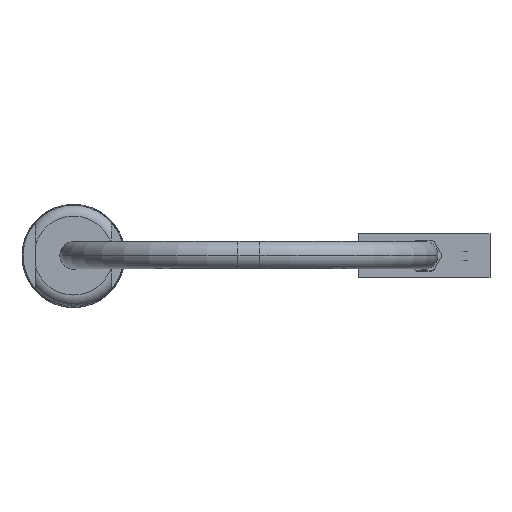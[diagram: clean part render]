
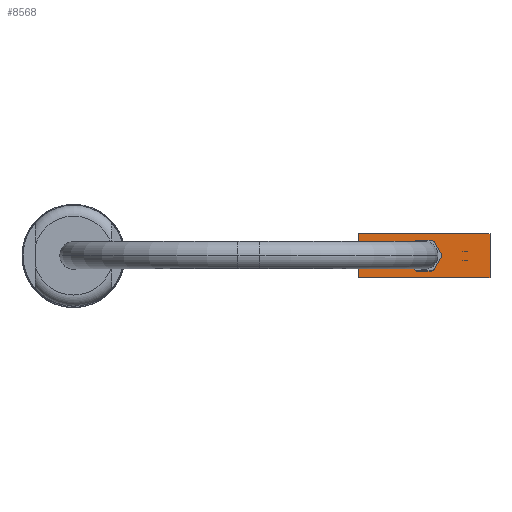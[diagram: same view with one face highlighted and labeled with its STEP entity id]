
A CAD part, top view. The second image highlights one B-rep face of the part: STEP entity #8568.
In plain terms, the highlighted planar face has unit normal (0, 0, 1).
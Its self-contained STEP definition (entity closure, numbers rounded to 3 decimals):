
#16=DIRECTION('',(1.,0.,0.));
#17=VECTOR('',#16,12.);
#18=CARTESIAN_POINT('',(-6.,-2.,0.));
#19=LINE('',#18,#17);
#110=DIRECTION('',(0.,1.,0.));
#111=VECTOR('',#110,4.);
#112=CARTESIAN_POINT('',(-6.,-2.,0.));
#113=LINE('',#112,#111);
#117=DIRECTION('',(1.,0.,0.));
#118=VECTOR('',#117,1.27);
#119=CARTESIAN_POINT('',(-0.635,-1.4,0.));
#120=LINE('',#119,#118);
#124=DIRECTION('',(0.5,0.866,0.));
#125=VECTOR('',#124,1.27);
#126=CARTESIAN_POINT('',(0.895,-1.25,0.));
#127=LINE('',#126,#125);
#131=DIRECTION('',(-0.5,0.866,0.));
#132=VECTOR('',#131,1.27);
#133=CARTESIAN_POINT('',(1.53,0.15,0.));
#134=LINE('',#133,#132);
#138=DIRECTION('',(-1.,0.,0.));
#139=VECTOR('',#138,1.27);
#140=CARTESIAN_POINT('',(0.635,1.4,0.));
#141=LINE('',#140,#139);
#145=DIRECTION('',(-0.5,-0.866,0.));
#146=VECTOR('',#145,1.27);
#147=CARTESIAN_POINT('',(-0.895,1.25,0.));
#148=LINE('',#147,#146);
#152=DIRECTION('',(0.5,-0.866,0.));
#153=VECTOR('',#152,1.27);
#154=CARTESIAN_POINT('',(-1.53,-0.15,0.));
#155=LINE('',#154,#153);
#194=DIRECTION('',(0.,1.,0.));
#195=VECTOR('',#194,4.);
#196=CARTESIAN_POINT('',(6.,-2.,0.));
#197=LINE('',#196,#195);
#2334=DIRECTION('',(1.,0.,0.));
#2335=VECTOR('',#2334,12.);
#2336=CARTESIAN_POINT('',(-6.,2.,0.));
#2337=LINE('',#2336,#2335);
#6704=CARTESIAN_POINT('',(0.635,-1.1,0.));
#6705=DIRECTION('',(0.,0.,-1.));
#6706=DIRECTION('',(0.866,-0.5,0.));
#6707=AXIS2_PLACEMENT_3D('',#6704,#6705,#6706);
#6818=CARTESIAN_POINT('',(1.27,0.,0.));
#6819=DIRECTION('',(0.,0.,-1.));
#6820=DIRECTION('',(0.866,0.5,0.));
#6821=AXIS2_PLACEMENT_3D('',#6818,#6819,#6820);
#6854=CARTESIAN_POINT('',(0.635,1.1,0.));
#6855=DIRECTION('',(0.,0.,-1.));
#6856=DIRECTION('',(0.,1.,0.));
#6857=AXIS2_PLACEMENT_3D('',#6854,#6855,#6856);
#6876=CARTESIAN_POINT('',(-0.635,1.1,0.));
#6877=DIRECTION('',(0.,0.,-1.));
#6878=DIRECTION('',(-0.866,0.5,0.));
#6879=AXIS2_PLACEMENT_3D('',#6876,#6877,#6878);
#6898=CARTESIAN_POINT('',(-1.27,0.,0.));
#6899=DIRECTION('',(0.,0.,-1.));
#6900=DIRECTION('',(-0.866,-0.5,0.));
#6901=AXIS2_PLACEMENT_3D('',#6898,#6899,#6900);
#6920=CARTESIAN_POINT('',(-0.635,-1.1,0.));
#6921=DIRECTION('',(0.,0.,-1.));
#6922=DIRECTION('',(0.,-1.,0.));
#6923=AXIS2_PLACEMENT_3D('',#6920,#6921,#6922);
#7142=CARTESIAN_POINT('',(-6.,-2.,0.));
#7143=CARTESIAN_POINT('',(6.,-2.,0.));
#7144=VERTEX_POINT('',#7142);
#7145=VERTEX_POINT('',#7143);
#7150=CARTESIAN_POINT('',(-6.,2.,0.));
#7151=CARTESIAN_POINT('',(6.,2.,0.));
#7152=VERTEX_POINT('',#7150);
#7153=VERTEX_POINT('',#7151);
#7219=CARTESIAN_POINT('',(1.53,-0.15,0.));
#7221=VERTEX_POINT('',#7219);
#7224=CARTESIAN_POINT('',(1.53,0.15,0.));
#7225=VERTEX_POINT('',#7224);
#7227=CARTESIAN_POINT('',(0.635,-1.4,0.));
#7229=VERTEX_POINT('',#7227);
#7232=CARTESIAN_POINT('',(0.895,-1.25,0.));
#7233=VERTEX_POINT('',#7232);
#7235=CARTESIAN_POINT('',(-0.895,-1.25,0.));
#7237=VERTEX_POINT('',#7235);
#7240=CARTESIAN_POINT('',(-0.635,-1.4,0.));
#7241=VERTEX_POINT('',#7240);
#7243=CARTESIAN_POINT('',(-1.53,0.15,0.));
#7245=VERTEX_POINT('',#7243);
#7248=CARTESIAN_POINT('',(-1.53,-0.15,0.));
#7249=VERTEX_POINT('',#7248);
#7251=CARTESIAN_POINT('',(-0.635,1.4,0.));
#7253=VERTEX_POINT('',#7251);
#7256=CARTESIAN_POINT('',(-0.895,1.25,0.));
#7257=VERTEX_POINT('',#7256);
#7259=CARTESIAN_POINT('',(0.895,1.25,0.));
#7261=VERTEX_POINT('',#7259);
#7264=CARTESIAN_POINT('',(0.635,1.4,0.));
#7265=VERTEX_POINT('',#7264);
#8528=CARTESIAN_POINT('',(-6.,-2.,0.));
#8529=DIRECTION('',(0.,0.,1.));
#8530=DIRECTION('',(1.,0.,0.));
#8531=AXIS2_PLACEMENT_3D('',#8528,#8529,#8530);
#8532=PLANE('',#8531);
#8533=ORIENTED_EDGE('',*,*,#8487,.F.);
#8535=ORIENTED_EDGE('',*,*,#8534,.T.);
#8537=ORIENTED_EDGE('',*,*,#8536,.T.);
#8539=ORIENTED_EDGE('',*,*,#8538,.F.);
#8540=EDGE_LOOP('',(#8533,#8535,#8537,#8539));
#8541=FACE_OUTER_BOUND('',#8540,.F.);
#8543=ORIENTED_EDGE('',*,*,#8542,.T.);
#8545=ORIENTED_EDGE('',*,*,#8544,.F.);
#8547=ORIENTED_EDGE('',*,*,#8546,.T.);
#8549=ORIENTED_EDGE('',*,*,#8548,.F.);
#8551=ORIENTED_EDGE('',*,*,#8550,.T.);
#8553=ORIENTED_EDGE('',*,*,#8552,.F.);
#8555=ORIENTED_EDGE('',*,*,#8554,.T.);
#8557=ORIENTED_EDGE('',*,*,#8556,.F.);
#8559=ORIENTED_EDGE('',*,*,#8558,.T.);
#8561=ORIENTED_EDGE('',*,*,#8560,.F.);
#8563=ORIENTED_EDGE('',*,*,#8562,.T.);
#8565=ORIENTED_EDGE('',*,*,#8564,.F.);
#8566=EDGE_LOOP('',(#8543,#8545,#8547,#8549,#8551,#8553,#8555,#8557,#8559,#8561,
#8563,#8565));
#8567=FACE_BOUND('',#8566,.F.);
#8568=ADVANCED_FACE('',(#8541,#8567),#8532,.T.);
#6708=CIRCLE('',#6707,0.3);
#6822=CIRCLE('',#6821,0.3);
#6858=CIRCLE('',#6857,0.3);
#6880=CIRCLE('',#6879,0.3);
#6902=CIRCLE('',#6901,0.3);
#6924=CIRCLE('',#6923,0.3);
#8487=EDGE_CURVE('',#7144,#7145,#19,.T.);
#8534=EDGE_CURVE('',#7144,#7152,#113,.T.);
#8536=EDGE_CURVE('',#7152,#7153,#2337,.T.);
#8538=EDGE_CURVE('',#7145,#7153,#197,.T.);
#8542=EDGE_CURVE('',#7241,#7229,#120,.T.);
#8544=EDGE_CURVE('',#7233,#7229,#6708,.T.);
#8546=EDGE_CURVE('',#7233,#7221,#127,.T.);
#8548=EDGE_CURVE('',#7225,#7221,#6822,.T.);
#8550=EDGE_CURVE('',#7225,#7261,#134,.T.);
#8552=EDGE_CURVE('',#7265,#7261,#6858,.T.);
#8554=EDGE_CURVE('',#7265,#7253,#141,.T.);
#8556=EDGE_CURVE('',#7257,#7253,#6880,.T.);
#8558=EDGE_CURVE('',#7257,#7245,#148,.T.);
#8560=EDGE_CURVE('',#7249,#7245,#6902,.T.);
#8562=EDGE_CURVE('',#7249,#7237,#155,.T.);
#8564=EDGE_CURVE('',#7241,#7237,#6924,.T.);
